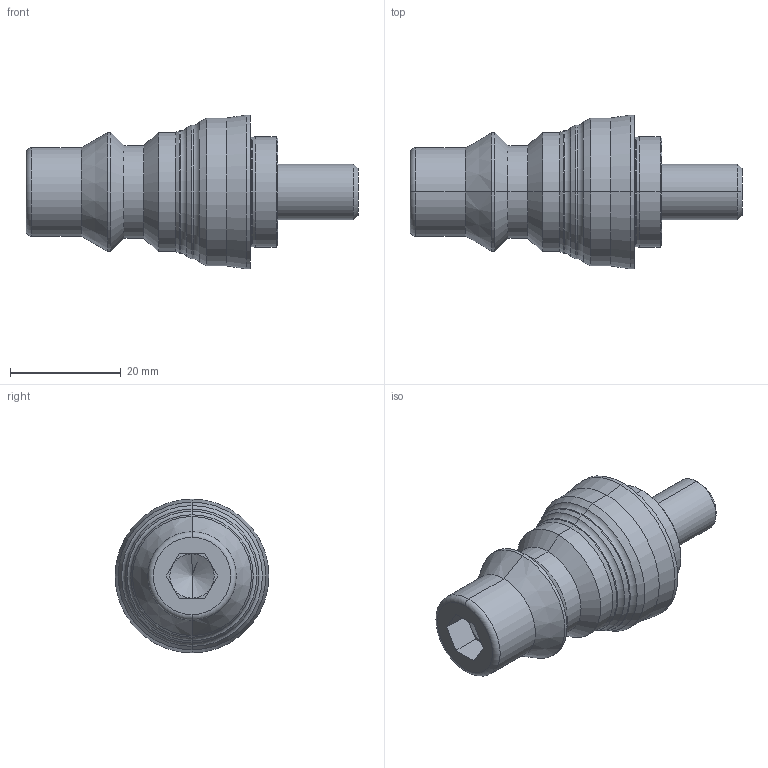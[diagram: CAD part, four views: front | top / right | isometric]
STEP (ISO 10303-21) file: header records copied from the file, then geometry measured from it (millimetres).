
FILE_DESCRIPTION (( 'STEP AP203' ), '1' );
FILE_NAME ('10S隅弇嶺隊.STEP', '2021-08-19T05:28:08', ( 'set' ), ( '' ), 'SwSTEP 2.0', 'SolidWorks 2018', '' );
FILE_SCHEMA (( 'CONFIG_CONTROL_DESIGN' ));
Length unit declared in the file: millimetre
Products named in the file (1): 10S隅弇嶺隊
Bounding box: 60 x 27.8 x 27.8 mm (x, y, z)
Volume: 16109.3 mm3; surface area: 6988.4 mm2
Topology: 2 solids, 2 shells, 222 faces, 560 edges, 353 vertices
Faces by surface type: plane 103, bspline 57, cone 28, cylinder 18, torus 16
Entity records: 9327 total; most frequent: CARTESIAN_POINT 4263, ORIENTED_EDGE 1116, DIRECTION 868, EDGE_CURVE 558, VERTEX_POINT 353, VECTOR 352, LINE 352, AXIS2_PLACEMENT_3D 258
